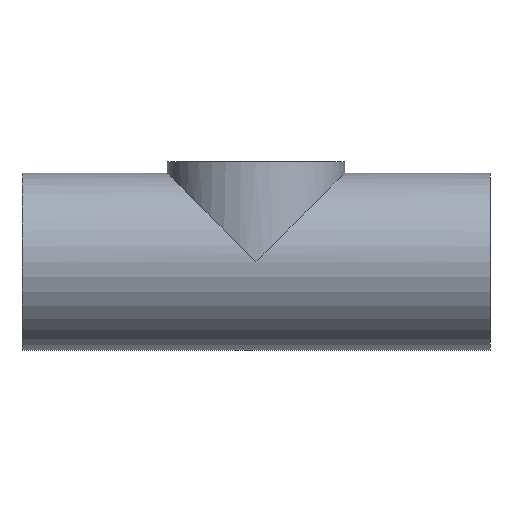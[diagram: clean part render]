
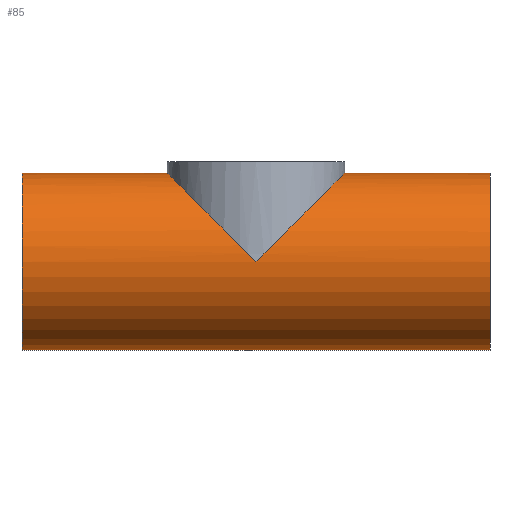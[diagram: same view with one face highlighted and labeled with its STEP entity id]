
A CAD part, front view. The second image highlights one B-rep face of the part: STEP entity #85.
In plain terms, the highlighted cylindrical face has radius 26.5 mm (diameter 53 mm), a full revolution.
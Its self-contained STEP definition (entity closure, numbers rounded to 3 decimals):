
#21 = EDGE_CURVE('',#22,#22,#24,.T.);
#22 = VERTEX_POINT('',#23);
#23 = CARTESIAN_POINT('',(-70.,0.,-26.5));
#24 = SURFACE_CURVE('',#25,(#30,#42),.PCURVE_S1.);
#25 = CIRCLE('',#26,26.5);
#26 = AXIS2_PLACEMENT_3D('',#27,#28,#29);
#27 = CARTESIAN_POINT('',(-70.,0.,0.));
#28 = DIRECTION('',(1.,-0.,0.));
#29 = DIRECTION('',(0.,0.,-1.));
#30 = PCURVE('',#31,#36);
#31 = PLANE('',#32);
#32 = AXIS2_PLACEMENT_3D('',#33,#34,#35);
#33 = CARTESIAN_POINT('',(-70.,0.,0.));
#34 = DIRECTION('',(1.,0.,0.));
#35 = DIRECTION('',(0.,0.,-1.));
#36 = DEFINITIONAL_REPRESENTATION('',(#37),#41);
#37 = CIRCLE('',#38,26.5);
#38 = AXIS2_PLACEMENT_2D('',#39,#40);
#39 = CARTESIAN_POINT('',(0.,0.));
#40 = DIRECTION('',(1.,0.));
#41 = ( GEOMETRIC_REPRESENTATION_CONTEXT(2) 
PARAMETRIC_REPRESENTATION_CONTEXT() REPRESENTATION_CONTEXT('2D SPACE',''
  ) );
#42 = PCURVE('',#43,#48);
#43 = CYLINDRICAL_SURFACE('',#44,26.5);
#44 = AXIS2_PLACEMENT_3D('',#45,#46,#47);
#45 = CARTESIAN_POINT('',(-70.,0.,0.));
#46 = DIRECTION('',(1.,0.,0.));
#47 = DIRECTION('',(0.,0.,-1.));
#48 = DEFINITIONAL_REPRESENTATION('',(#49),#53);
#49 = LINE('',#50,#51);
#50 = CARTESIAN_POINT('',(0.,0.));
#51 = VECTOR('',#52,1.);
#52 = DIRECTION('',(1.,0.));
#53 = ( GEOMETRIC_REPRESENTATION_CONTEXT(2) 
PARAMETRIC_REPRESENTATION_CONTEXT() REPRESENTATION_CONTEXT('2D SPACE',''
  ) );
#85 = ADVANCED_FACE('',(#86,#140),#43,.T.);
#86 = FACE_BOUND('',#87,.T.);
#87 = EDGE_LOOP('',(#88,#111,#138,#139));
#88 = ORIENTED_EDGE('',*,*,#89,.T.);
#89 = EDGE_CURVE('',#22,#90,#92,.T.);
#90 = VERTEX_POINT('',#91);
#91 = CARTESIAN_POINT('',(70.,0.,-26.5));
#92 = SEAM_CURVE('',#93,(#97,#104),.PCURVE_S1.);
#93 = LINE('',#94,#95);
#94 = CARTESIAN_POINT('',(-70.,0.,-26.5));
#95 = VECTOR('',#96,1.);
#96 = DIRECTION('',(1.,0.,0.));
#97 = PCURVE('',#43,#98);
#98 = DEFINITIONAL_REPRESENTATION('',(#99),#103);
#99 = LINE('',#100,#101);
#100 = CARTESIAN_POINT('',(6.283,-0.));
#101 = VECTOR('',#102,1.);
#102 = DIRECTION('',(0.,1.));
#103 = ( GEOMETRIC_REPRESENTATION_CONTEXT(2) 
PARAMETRIC_REPRESENTATION_CONTEXT() REPRESENTATION_CONTEXT('2D SPACE',''
  ) );
#104 = PCURVE('',#43,#105);
#105 = DEFINITIONAL_REPRESENTATION('',(#106),#110);
#106 = LINE('',#107,#108);
#107 = CARTESIAN_POINT('',(0.,-0.));
#108 = VECTOR('',#109,1.);
#109 = DIRECTION('',(0.,1.));
#110 = ( GEOMETRIC_REPRESENTATION_CONTEXT(2) 
PARAMETRIC_REPRESENTATION_CONTEXT() REPRESENTATION_CONTEXT('2D SPACE',''
  ) );
#111 = ORIENTED_EDGE('',*,*,#112,.F.);
#112 = EDGE_CURVE('',#90,#90,#113,.T.);
#113 = SURFACE_CURVE('',#114,(#119,#126),.PCURVE_S1.);
#114 = CIRCLE('',#115,26.5);
#115 = AXIS2_PLACEMENT_3D('',#116,#117,#118);
#116 = CARTESIAN_POINT('',(70.,0.,0.));
#117 = DIRECTION('',(1.,-0.,0.));
#118 = DIRECTION('',(0.,0.,-1.));
#119 = PCURVE('',#43,#120);
#120 = DEFINITIONAL_REPRESENTATION('',(#121),#125);
#121 = LINE('',#122,#123);
#122 = CARTESIAN_POINT('',(0.,140.));
#123 = VECTOR('',#124,1.);
#124 = DIRECTION('',(1.,0.));
#125 = ( GEOMETRIC_REPRESENTATION_CONTEXT(2) 
PARAMETRIC_REPRESENTATION_CONTEXT() REPRESENTATION_CONTEXT('2D SPACE',''
  ) );
#126 = PCURVE('',#127,#132);
#127 = PLANE('',#128);
#128 = AXIS2_PLACEMENT_3D('',#129,#130,#131);
#129 = CARTESIAN_POINT('',(70.,0.,0.));
#130 = DIRECTION('',(1.,0.,0.));
#131 = DIRECTION('',(0.,0.,-1.));
#132 = DEFINITIONAL_REPRESENTATION('',(#133),#137);
#133 = CIRCLE('',#134,26.5);
#134 = AXIS2_PLACEMENT_2D('',#135,#136);
#135 = CARTESIAN_POINT('',(0.,0.));
#136 = DIRECTION('',(1.,0.));
#137 = ( GEOMETRIC_REPRESENTATION_CONTEXT(2) 
PARAMETRIC_REPRESENTATION_CONTEXT() REPRESENTATION_CONTEXT('2D SPACE',''
  ) );
#138 = ORIENTED_EDGE('',*,*,#89,.F.);
#139 = ORIENTED_EDGE('',*,*,#21,.T.);
#140 = FACE_BOUND('',#141,.T.);
#141 = EDGE_LOOP('',(#142,#189,#225));
#142 = ORIENTED_EDGE('',*,*,#143,.F.);
#143 = EDGE_CURVE('',#144,#146,#148,.T.);
#144 = VERTEX_POINT('',#145);
#145 = CARTESIAN_POINT('',(0.,26.5,0.));
#146 = VERTEX_POINT('',#147);
#147 = CARTESIAN_POINT('',(0.,-26.5,0.));
#148 = SURFACE_CURVE('',#149,(#154,#169),.PCURVE_S1.);
#149 = ELLIPSE('',#150,37.477,26.5);
#150 = AXIS2_PLACEMENT_3D('',#151,#152,#153);
#151 = CARTESIAN_POINT('',(0.,0.,0.));
#152 = DIRECTION('',(0.707,-0.,0.707));
#153 = DIRECTION('',(0.707,0.,-0.707));
#154 = PCURVE('',#43,#155);
#155 = DEFINITIONAL_REPRESENTATION('',(#156),#168);
#156 = B_SPLINE_CURVE_WITH_KNOTS('',10,(#157,#158,#159,#160,#161,#162,
    #163,#164,#165,#166,#167),.UNSPECIFIED.,.F.,.F.,(11,11),(
    1.571,4.712),.PIECEWISE_BEZIER_KNOTS.);
#157 = CARTESIAN_POINT('',(1.571,70.));
#158 = CARTESIAN_POINT('',(1.885,61.675));
#159 = CARTESIAN_POINT('',(2.199,53.35));
#160 = CARTESIAN_POINT('',(2.513,46.166));
#161 = CARTESIAN_POINT('',(2.827,41.264));
#162 = CARTESIAN_POINT('',(3.142,39.518));
#163 = CARTESIAN_POINT('',(3.456,41.264));
#164 = CARTESIAN_POINT('',(3.77,46.166));
#165 = CARTESIAN_POINT('',(4.084,53.35));
#166 = CARTESIAN_POINT('',(4.398,61.675));
#167 = CARTESIAN_POINT('',(4.712,70.));
#168 = ( GEOMETRIC_REPRESENTATION_CONTEXT(2) 
PARAMETRIC_REPRESENTATION_CONTEXT() REPRESENTATION_CONTEXT('2D SPACE',''
  ) );
#169 = PCURVE('',#170,#175);
#170 = CYLINDRICAL_SURFACE('',#171,26.5);
#171 = AXIS2_PLACEMENT_3D('',#172,#173,#174);
#172 = CARTESIAN_POINT('',(0.,0.,0.));
#173 = DIRECTION('',(0.,0.,1.));
#174 = DIRECTION('',(1.,0.,0.));
#175 = DEFINITIONAL_REPRESENTATION('',(#176),#188);
#176 = B_SPLINE_CURVE_WITH_KNOTS('',10,(#177,#178,#179,#180,#181,#182,
    #183,#184,#185,#186,#187),.UNSPECIFIED.,.F.,.F.,(11,11),(
    1.571,4.712),.PIECEWISE_BEZIER_KNOTS.);
#177 = CARTESIAN_POINT('',(1.571,0.));
#178 = CARTESIAN_POINT('',(1.885,8.325));
#179 = CARTESIAN_POINT('',(2.199,16.65));
#180 = CARTESIAN_POINT('',(2.513,23.834));
#181 = CARTESIAN_POINT('',(2.827,28.736));
#182 = CARTESIAN_POINT('',(3.142,30.482));
#183 = CARTESIAN_POINT('',(3.456,28.736));
#184 = CARTESIAN_POINT('',(3.77,23.834));
#185 = CARTESIAN_POINT('',(4.084,16.65));
#186 = CARTESIAN_POINT('',(4.398,8.325));
#187 = CARTESIAN_POINT('',(4.712,0.));
#188 = ( GEOMETRIC_REPRESENTATION_CONTEXT(2) 
PARAMETRIC_REPRESENTATION_CONTEXT() REPRESENTATION_CONTEXT('2D SPACE',''
  ) );
#189 = ORIENTED_EDGE('',*,*,#190,.T.);
#190 = EDGE_CURVE('',#144,#191,#193,.T.);
#191 = VERTEX_POINT('',#192);
#192 = CARTESIAN_POINT('',(26.5,0.,26.5));
#193 = SURFACE_CURVE('',#194,(#199,#212),.PCURVE_S1.);
#194 = ELLIPSE('',#195,37.477,26.5);
#195 = AXIS2_PLACEMENT_3D('',#196,#197,#198);
#196 = CARTESIAN_POINT('',(0.,0.,0.));
#197 = DIRECTION('',(0.707,0.,-0.707));
#198 = DIRECTION('',(0.707,0.,0.707));
#199 = PCURVE('',#43,#200);
#200 = DEFINITIONAL_REPRESENTATION('',(#201),#211);
#201 = B_SPLINE_CURVE_WITH_KNOTS('',8,(#202,#203,#204,#205,#206,#207,
    #208,#209,#210),.UNSPECIFIED.,.F.,.F.,(9,9),(4.712,
    6.283),.PIECEWISE_BEZIER_KNOTS.);
#202 = CARTESIAN_POINT('',(1.571,70.));
#203 = CARTESIAN_POINT('',(1.767,75.203));
#204 = CARTESIAN_POINT('',(1.963,80.407));
#205 = CARTESIAN_POINT('',(2.16,85.304));
#206 = CARTESIAN_POINT('',(2.356,89.59));
#207 = CARTESIAN_POINT('',(2.553,92.997));
#208 = CARTESIAN_POINT('',(2.749,95.332));
#209 = CARTESIAN_POINT('',(2.945,96.5));
#210 = CARTESIAN_POINT('',(3.142,96.5));
#211 = ( GEOMETRIC_REPRESENTATION_CONTEXT(2) 
PARAMETRIC_REPRESENTATION_CONTEXT() REPRESENTATION_CONTEXT('2D SPACE',''
  ) );
#212 = PCURVE('',#170,#213);
#213 = DEFINITIONAL_REPRESENTATION('',(#214),#224);
#214 = B_SPLINE_CURVE_WITH_KNOTS('',8,(#215,#216,#217,#218,#219,#220,
    #221,#222,#223),.UNSPECIFIED.,.F.,.F.,(9,9),(4.712,
    6.283),.PIECEWISE_BEZIER_KNOTS.);
#215 = CARTESIAN_POINT('',(1.571,0.));
#216 = CARTESIAN_POINT('',(1.374,5.203));
#217 = CARTESIAN_POINT('',(1.178,10.407));
#218 = CARTESIAN_POINT('',(0.982,15.304));
#219 = CARTESIAN_POINT('',(0.785,19.59));
#220 = CARTESIAN_POINT('',(0.589,22.997));
#221 = CARTESIAN_POINT('',(0.393,25.332));
#222 = CARTESIAN_POINT('',(0.196,26.5));
#223 = CARTESIAN_POINT('',(0.,26.5));
#224 = ( GEOMETRIC_REPRESENTATION_CONTEXT(2) 
PARAMETRIC_REPRESENTATION_CONTEXT() REPRESENTATION_CONTEXT('2D SPACE',''
  ) );
#225 = ORIENTED_EDGE('',*,*,#226,.T.);
#226 = EDGE_CURVE('',#191,#146,#227,.T.);
#227 = SURFACE_CURVE('',#228,(#233,#246),.PCURVE_S1.);
#228 = ELLIPSE('',#229,37.477,26.5);
#229 = AXIS2_PLACEMENT_3D('',#230,#231,#232);
#230 = CARTESIAN_POINT('',(0.,0.,0.));
#231 = DIRECTION('',(0.707,0.,-0.707));
#232 = DIRECTION('',(0.707,0.,0.707));
#233 = PCURVE('',#43,#234);
#234 = DEFINITIONAL_REPRESENTATION('',(#235),#245);
#235 = B_SPLINE_CURVE_WITH_KNOTS('',8,(#236,#237,#238,#239,#240,#241,
    #242,#243,#244),.UNSPECIFIED.,.F.,.F.,(9,9),(0.,1.571),
  .PIECEWISE_BEZIER_KNOTS.);
#236 = CARTESIAN_POINT('',(3.142,96.5));
#237 = CARTESIAN_POINT('',(3.338,96.5));
#238 = CARTESIAN_POINT('',(3.534,95.332));
#239 = CARTESIAN_POINT('',(3.731,92.997));
#240 = CARTESIAN_POINT('',(3.927,89.59));
#241 = CARTESIAN_POINT('',(4.123,85.304));
#242 = CARTESIAN_POINT('',(4.32,80.407));
#243 = CARTESIAN_POINT('',(4.516,75.203));
#244 = CARTESIAN_POINT('',(4.712,70.));
#245 = ( GEOMETRIC_REPRESENTATION_CONTEXT(2) 
PARAMETRIC_REPRESENTATION_CONTEXT() REPRESENTATION_CONTEXT('2D SPACE',''
  ) );
#246 = PCURVE('',#170,#247);
#247 = DEFINITIONAL_REPRESENTATION('',(#248),#258);
#248 = B_SPLINE_CURVE_WITH_KNOTS('',8,(#249,#250,#251,#252,#253,#254,
    #255,#256,#257),.UNSPECIFIED.,.F.,.F.,(9,9),(0.,1.571),
  .PIECEWISE_BEZIER_KNOTS.);
#249 = CARTESIAN_POINT('',(6.283,26.5));
#250 = CARTESIAN_POINT('',(6.087,26.5));
#251 = CARTESIAN_POINT('',(5.89,25.332));
#252 = CARTESIAN_POINT('',(5.694,22.997));
#253 = CARTESIAN_POINT('',(5.498,19.59));
#254 = CARTESIAN_POINT('',(5.301,15.304));
#255 = CARTESIAN_POINT('',(5.105,10.407));
#256 = CARTESIAN_POINT('',(4.909,5.203));
#257 = CARTESIAN_POINT('',(4.712,0.));
#258 = ( GEOMETRIC_REPRESENTATION_CONTEXT(2) 
PARAMETRIC_REPRESENTATION_CONTEXT() REPRESENTATION_CONTEXT('2D SPACE',''
  ) );
